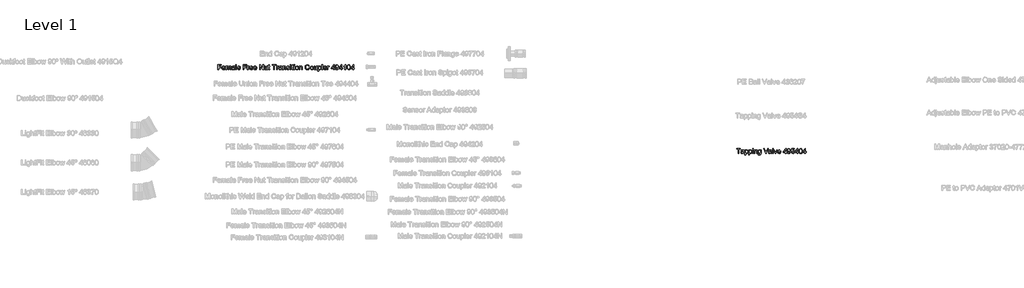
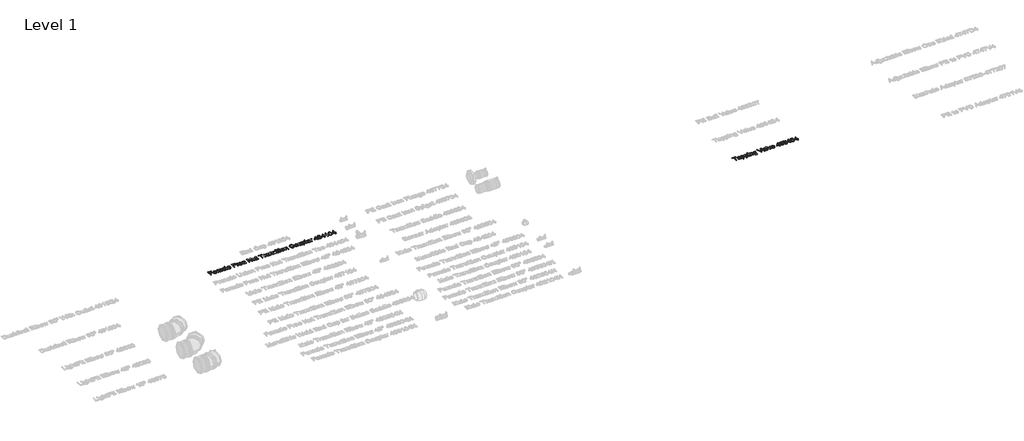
# One storey, part 26 of 38: 2 proxies.
"""IFC4 building model written with IfcOpenShell, lengths in millimetres."""

from ifc_helpers import new_model, si_unit, origin, origin_with_axes, place, context, project, spatial, polyline, outline, extrude, element, save

model = new_model("IFC4")

# Units and contexts
model_context = context("Model", 3, world=origin())
ifc_project = project(units=[si_unit("LENGTHUNIT", "METRE", prefix="MILLI")], contexts=[model_context])

# Site, building, storey
site = spatial("IfcSite", under=ifc_project)
building = spatial("IfcBuilding", under=site)
storey = spatial("IfcBuildingStorey", under=building, Name="Level 1", Elevation=0.0)

# Proxies
placement = place(None, origin())
element("IfcBuildingElementProxy", 1, Name="100 mm Arial", ObjectType="100 mm Arial", at=placement, inside=storey, context=model_context, shape_type="SweptSolid", body=[
    extrude(outline(polyline([(15533.4162632, 4921.8693943), (15533.4162632, 4980.9463174), (15573.1085709, 4980.9463174), (15573.1085709, 4973.561702), (15540.8008786, 4973.561702), (15540.8008786, 4956.0232405), (15568.4931863, 4956.0232405), (15568.4931863, 4948.6386251), (15540.8008786, 4948.6386251), (15540.8008786, 4921.8693943), (15533.4162632, 4921.8693943)])), origin_with_axes(), (0.0, 0.0, 1.0), 5.0),
    extrude(outline(polyline([(15612.7143402, 4934.7924713), (15619.9547248, 4933.8693943), (15613.1830902, 4924.3357405), (15600.5701094, 4920.9463174), (15591.9054459, 4922.4084568), (15585.2383786, 4926.7948751), (15580.9871767, 4933.8207165), (15579.5701094, 4943.2011251), (15581.0015998, 4952.8970386), (15585.2960709, 4960.1482405), (15591.872994, 4964.6698751), (15600.1518402, 4966.1770866), (15608.1728738, 4964.6734809), (15614.5821286, 4960.1626636), (15618.7846527, 4952.9258847), (15620.185494, 4943.2443943), (15620.1422248, 4941.2540097), (15586.9547248, 4941.2540097), (15591.2023209, 4931.6626636), (15600.7143402, 4928.3309328), (15607.9547248, 4929.874202), (15612.7143402, 4934.7924713)]), holes=[polyline([(15586.9547248, 4948.6386251), (15612.8008786, 4948.6386251), (15609.8441479, 4955.3309328), (15600.122994, 4958.7924713), (15591.029244, 4956.030452), (15586.9547248, 4948.6386251)])]), origin_with_axes(), (0.0, 0.0, 1.0), 5.0),
    extrude(outline(polyline([(15627.5701094, 4921.8693943), (15627.5701094, 4965.2540097), (15634.9547248, 4965.2540097), (15634.9547248, 4958.1145866), (15640.0316479, 4963.9631443), (15647.2576094, 4966.1770866), (15654.6566479, 4963.9198751), (15658.7239556, 4957.5953559), (15664.4859748, 4964.031654), (15671.7624171, 4966.1770866), (15681.4186671, 4962.6073751), (15684.8008786, 4951.609779), (15684.8008786, 4921.8693943), (15677.4162632, 4921.8693943), (15677.4162632, 4948.436702), (15676.7311671, 4954.6025674), (15674.2503979, 4957.6386251), (15670.0316479, 4958.7924713), (15662.7696286, 4955.8357405), (15659.8778017, 4946.359779), (15659.8778017, 4921.8693943), (15652.4931863, 4921.8693943), (15652.4931863, 4949.2588174), (15650.7840517, 4956.4126636), (15645.1806863, 4958.7924713), (15639.7143402, 4957.2059328), (15636.0797248, 4952.561702), (15634.9547248, 4943.749202), (15634.9547248, 4921.8693943), (15627.5701094, 4921.8693943)])), origin_with_axes(), (0.0, 0.0, 1.0), 5.0),
    extrude(outline(polyline([(15723.5701094, 4927.4078559), (15716.4090517, 4922.4030482), (15708.497994, 4920.9463174), (15697.7744363, 4924.4511251), (15694.0316479, 4933.4078559), (15695.4451094, 4939.249202), (15699.1590517, 4943.4895866), (15704.3297248, 4945.9126636), (15710.7191479, 4947.0232405), (15723.5268402, 4949.561702), (15723.5701094, 4951.2059328), (15721.5364556, 4956.6578559), (15713.372994, 4958.7924713), (15705.9018402, 4957.3717982), (15702.3393402, 4952.3309328), (15694.9547248, 4953.2540097), (15698.1494363, 4960.4655482), (15704.5821286, 4964.6915097), (15714.3249171, 4966.1770866), (15723.2744363, 4964.8645866), (15728.3297248, 4961.5689136), (15730.5941479, 4956.5568943), (15730.9547248, 4950.0953559), (15730.9547248, 4940.9078559), (15731.3297248, 4928.078529), (15732.8008786, 4921.8693943), (15725.4162632, 4921.8693943), (15723.5701094, 4927.4078559)]), holes=[polyline([(15723.5701094, 4942.1770866), (15711.6566479, 4939.9126636), (15705.3032825, 4938.7155482), (15702.4258786, 4936.7684328), (15701.4162632, 4933.9270866), (15703.6157825, 4929.9318943), (15710.0701094, 4928.3309328), (15717.5412632, 4930.0977597), (15722.3585709, 4934.374202), (15723.5268402, 4940.0857405), (15723.5701094, 4942.1770866)])]), origin_with_axes(), (0.0, 0.0, 1.0), 5.0),
    extrude(outline(polyline([(15741.1085709, 4921.8693943), (15741.1085709, 4980.9463174), (15748.4931863, 4980.9463174), (15748.4931863, 4921.8693943), (15741.1085709, 4921.8693943)])), origin_with_axes(), (0.0, 0.0, 1.0), 5.0),
    extrude(outline(polyline([(15789.9451094, 4934.7924713), (15797.185494, 4933.8693943), (15790.4138594, 4924.3357405), (15777.8008786, 4920.9463174), (15769.1362152, 4922.4084568), (15762.4691479, 4926.7948751), (15758.2179459, 4933.8207165), (15756.8008786, 4943.2011251), (15758.232369, 4952.8970386), (15762.5268402, 4960.1482405), (15769.1037632, 4964.6698751), (15777.3826094, 4966.1770866), (15785.4036431, 4964.6734809), (15791.8128979, 4960.1626636), (15796.0154219, 4952.9258847), (15797.4162632, 4943.2443943), (15797.372994, 4941.2540097), (15764.185494, 4941.2540097), (15768.4330902, 4931.6626636), (15777.9451094, 4928.3309328), (15785.185494, 4929.874202), (15789.9451094, 4934.7924713)]), holes=[polyline([(15764.185494, 4948.6386251), (15790.0316479, 4948.6386251), (15787.0749171, 4955.3309328), (15777.3537632, 4958.7924713), (15768.2600132, 4956.030452), (15764.185494, 4948.6386251)])]), origin_with_axes(), (0.0, 0.0, 1.0), 5.0),
    extrude(outline(polyline([(15828.8008786, 4921.8693943), (15828.8008786, 4980.9463174), (15868.4931863, 4980.9463174), (15868.4931863, 4973.561702), (15836.185494, 4973.561702), (15836.185494, 4956.0232405), (15863.8778017, 4956.0232405), (15863.8778017, 4948.6386251), (15836.185494, 4948.6386251), (15836.185494, 4921.8693943), (15828.8008786, 4921.8693943)])), origin_with_axes(), (0.0, 0.0, 1.0), 5.0),
    extrude(outline(polyline([(15877.7239556, 4921.8693943), (15877.7239556, 4965.2540097), (15884.185494, 4965.2540097), (15884.185494, 4958.8357405), (15888.7720325, 4964.749202), (15893.3874171, 4966.1770866), (15900.8008786, 4963.8982405), (15898.3345325, 4957.2780482), (15893.1422248, 4958.7924713), (15888.966744, 4957.3357405), (15886.3056863, 4953.297279), (15885.1085709, 4944.672279), (15885.1085709, 4921.8693943), (15877.7239556, 4921.8693943)])), origin_with_axes(), (0.0, 0.0, 1.0), 5.0),
    extrude(outline(polyline([(15935.7912632, 4934.7924713), (15943.0316479, 4933.8693943), (15936.2600132, 4924.3357405), (15923.6470325, 4920.9463174), (15914.982369, 4922.4084568), (15908.3153017, 4926.7948751), (15904.0640998, 4933.8207165), (15902.6470325, 4943.2011251), (15904.0785229, 4952.8970386), (15908.372994, 4960.1482405), (15914.9499171, 4964.6698751), (15923.2287632, 4966.1770866), (15931.2497969, 4964.6734809), (15937.6590517, 4960.1626636), (15941.8615757, 4952.9258847), (15943.2624171, 4943.2443943), (15943.2191479, 4941.2540097), (15910.0316479, 4941.2540097), (15914.279244, 4931.6626636), (15923.7912632, 4928.3309328), (15931.0316479, 4929.874202), (15935.7912632, 4934.7924713)]), holes=[polyline([(15910.0316479, 4948.6386251), (15935.8778017, 4948.6386251), (15932.9210709, 4955.3309328), (15923.1999171, 4958.7924713), (15914.1061671, 4956.030452), (15910.0316479, 4948.6386251)])]), origin_with_axes(), (0.0, 0.0, 1.0), 5.0),
    extrude(outline(polyline([(15981.0220325, 4934.7924713), (15988.2624171, 4933.8693943), (15981.4907825, 4924.3357405), (15968.8778017, 4920.9463174), (15960.2131382, 4922.4084568), (15953.5460709, 4926.7948751), (15949.294869, 4933.8207165), (15947.8778017, 4943.2011251), (15949.3092921, 4952.8970386), (15953.6037632, 4960.1482405), (15960.1806863, 4964.6698751), (15968.4595325, 4966.1770866), (15976.4805661, 4964.6734809), (15982.8898209, 4960.1626636), (15987.092345, 4952.9258847), (15988.4931863, 4943.2443943), (15988.4499171, 4941.2540097), (15955.2624171, 4941.2540097), (15959.5100132, 4931.6626636), (15969.0220325, 4928.3309328), (15976.2624171, 4929.874202), (15981.0220325, 4934.7924713)]), holes=[polyline([(15955.2624171, 4948.6386251), (15981.1085709, 4948.6386251), (15978.1518402, 4955.3309328), (15968.4306863, 4958.7924713), (15959.3369363, 4956.030452), (15955.2624171, 4948.6386251)])]), origin_with_axes(), (0.0, 0.0, 1.0), 5.0),
    extrude(outline(polyline([(16019.8778017, 4921.8693943), (16019.8778017, 4980.9463174), (16027.7816479, 4980.9463174), (16058.6470325, 4934.1434328), (16058.6470325, 4980.9463174), (16066.0316479, 4980.9463174), (16066.0316479, 4921.8693943), (16058.1278017, 4921.8693943), (16027.2624171, 4968.686702), (16027.2624171, 4921.8693943), (16019.8778017, 4921.8693943)])), origin_with_axes(), (0.0, 0.0, 1.0), 5.0),
    extrude(outline(polyline([(16105.7239556, 4921.8693943), (16105.7239556, 4929.3261251), (16099.9403017, 4923.0412693), (16092.3970325, 4920.9463174), (16085.4523209, 4922.4174713), (16080.6638594, 4926.109779), (16078.4643402, 4931.547279), (16078.0316479, 4938.4126636), (16078.0316479, 4965.2540097), (16085.4162632, 4965.2540097), (16085.4162632, 4941.8886251), (16085.8633786, 4934.359779), (16088.7840517, 4929.9391059), (16094.2864556, 4928.3309328), (16100.4523209, 4929.9751636), (16104.5268402, 4934.453529), (16105.7239556, 4942.6818943), (16105.7239556, 4965.2540097), (16113.1085709, 4965.2540097), (16113.1085709, 4921.8693943), (16105.7239556, 4921.8693943)])), origin_with_axes(), (0.0, 0.0, 1.0), 5.0),
    extrude(outline(polyline([(16138.9547248, 4928.0280482), (16139.8778017, 4921.6530482), (16134.3537632, 4920.9463174), (16128.1662632, 4922.172279), (16125.0797248, 4925.3886251), (16124.185494, 4933.7684328), (16124.185494, 4957.8693943), (16118.6470325, 4957.8693943), (16118.6470325, 4965.2540097), (16124.185494, 4965.2540097), (16124.185494, 4975.797279), (16131.5701094, 4980.1386251), (16131.5701094, 4965.2540097), (16138.9547248, 4965.2540097), (16138.9547248, 4957.8693943), (16131.5701094, 4957.8693943), (16131.5701094, 4933.984779), (16131.9595325, 4930.1770866), (16133.2215517, 4928.828529), (16135.7383786, 4928.3309328), (16138.9547248, 4928.0280482)])), origin_with_axes(), (0.0, 0.0, 1.0), 5.0),
    extrude(outline(polyline([(16185.1085709, 4921.8693943), (16185.1085709, 4973.561702), (16165.7239556, 4973.561702), (16165.7239556, 4980.9463174), (16211.8778017, 4980.9463174), (16211.8778017, 4973.561702), (16192.4931863, 4973.561702), (16192.4931863, 4921.8693943), (16185.1085709, 4921.8693943)])), origin_with_axes(), (0.0, 0.0, 1.0), 5.0),
    extrude(outline(polyline([(16219.2624171, 4921.8693943), (16219.2624171, 4965.2540097), (16225.7239556, 4965.2540097), (16225.7239556, 4958.8357405), (16230.310494, 4964.749202), (16234.9258786, 4966.1770866), (16242.3393402, 4963.8982405), (16239.872994, 4957.2780482), (16234.6806863, 4958.7924713), (16230.5052056, 4957.3357405), (16227.8441479, 4953.297279), (16226.6470325, 4944.672279), (16226.6470325, 4921.8693943), (16219.2624171, 4921.8693943)])), origin_with_axes(), (0.0, 0.0, 1.0), 5.0),
    extrude(outline(polyline([(16274.6470325, 4927.4078559), (16267.4859748, 4922.4030482), (16259.5749171, 4920.9463174), (16248.8513594, 4924.4511251), (16245.1085709, 4933.4078559), (16246.5220325, 4939.249202), (16250.2359748, 4943.4895866), (16255.4066479, 4945.9126636), (16261.7960709, 4947.0232405), (16274.6037632, 4949.561702), (16274.6470325, 4951.2059328), (16272.6133786, 4956.6578559), (16264.4499171, 4958.7924713), (16256.9787632, 4957.3717982), (16253.4162632, 4952.3309328), (16246.0316479, 4953.2540097), (16249.2263594, 4960.4655482), (16255.6590517, 4964.6915097), (16265.4018402, 4966.1770866), (16274.3513594, 4964.8645866), (16279.4066479, 4961.5689136), (16281.6710709, 4956.5568943), (16282.0316479, 4950.0953559), (16282.0316479, 4940.9078559), (16282.4066479, 4928.078529), (16283.8778017, 4921.8693943), (16276.4931863, 4921.8693943), (16274.6470325, 4927.4078559)]), holes=[polyline([(16274.6470325, 4942.1770866), (16262.7335709, 4939.9126636), (16256.3802056, 4938.7155482), (16253.5028017, 4936.7684328), (16252.4931863, 4933.9270866), (16254.6927056, 4929.9318943), (16261.1470325, 4928.3309328), (16268.6181863, 4930.0977597), (16273.435494, 4934.374202), (16274.6037632, 4940.0857405), (16274.6470325, 4942.1770866)])]), origin_with_axes(), (0.0, 0.0, 1.0), 5.0),
    extrude(outline(polyline([(16292.185494, 4921.8693943), (16292.185494, 4965.2540097), (16299.5701094, 4965.2540097), (16299.5701094, 4959.1963174), (16305.216744, 4964.4318943), (16312.9258786, 4966.1770866), (16319.8994363, 4964.7708366), (16324.6590517, 4961.078529), (16326.872994, 4955.6482405), (16327.2624171, 4948.5088174), (16327.2624171, 4921.8693943), (16319.8778017, 4921.8693943), (16319.8778017, 4947.5136251), (16319.0268402, 4954.047279), (16316.0196286, 4957.5016059), (16310.9499171, 4958.7924713), (16302.9378979, 4955.8934328), (16299.5701094, 4944.8886251), (16299.5701094, 4921.8693943), (16292.185494, 4921.8693943)])), origin_with_axes(), (0.0, 0.0, 1.0), 5.0),
    extrude(outline(polyline([(16334.6470325, 4934.7924713), (16342.0316479, 4935.7155482), (16345.4499171, 4930.234779), (16353.2816479, 4928.3309328), (16360.810494, 4930.0761251), (16363.2624171, 4934.172279), (16360.7960709, 4937.4895866), (16353.1951094, 4939.5953559), (16342.0749171, 4943.2083366), (16337.2215517, 4947.4270866), (16335.5701094, 4953.3838174), (16336.8970325, 4958.8862213), (16340.5172248, 4963.0905482), (16345.2119363, 4965.2756443), (16351.5653017, 4966.1770866), (16360.5508786, 4964.7275674), (16366.2624171, 4960.8044905), (16368.8008786, 4954.1770866), (16361.4162632, 4953.2540097), (16358.6398209, 4957.328529), (16352.1422248, 4958.7924713), (16345.0749171, 4957.3934328), (16342.9547248, 4954.1338174), (16343.8345325, 4951.984779), (16346.5893402, 4950.3549713), (16352.9499171, 4948.7828559), (16363.7888594, 4945.3068943), (16368.8225132, 4941.3693943), (16370.6470325, 4934.9511251), (16368.5052056, 4927.8838174), (16362.3249171, 4922.7564136), (16353.1806863, 4920.9463174), (16340.3008786, 4924.436702), (16334.6470325, 4934.7924713)])), origin_with_axes(), (0.0, 0.0, 1.0), 5.0),
    extrude(outline(polyline([(16378.9547248, 4921.8693943), (16378.9547248, 4965.2540097), (16386.3393402, 4965.2540097), (16386.3393402, 4921.8693943), (16378.9547248, 4921.8693943)])), origin_with_axes(), (0.0, 0.0, 1.0), 5.0),
    extrude(outline(polyline([(16378.9547248, 4973.561702), (16378.9547248, 4980.9463174), (16386.3393402, 4980.9463174), (16386.3393402, 4973.561702), (16378.9547248, 4973.561702)])), origin_with_axes(), (0.0, 0.0, 1.0), 5.0),
    extrude(outline(polyline([(16413.1085709, 4928.0280482), (16414.0316479, 4921.6530482), (16408.5076094, 4920.9463174), (16402.3201094, 4922.172279), (16399.2335709, 4925.3886251), (16398.3393402, 4933.7684328), (16398.3393402, 4957.8693943), (16392.8008786, 4957.8693943), (16392.8008786, 4965.2540097), (16398.3393402, 4965.2540097), (16398.3393402, 4975.797279), (16405.7239556, 4980.1386251), (16405.7239556, 4965.2540097), (16413.1085709, 4965.2540097), (16413.1085709, 4957.8693943), (16405.7239556, 4957.8693943), (16405.7239556, 4933.984779), (16406.1133786, 4930.1770866), (16407.3753979, 4928.828529), (16409.8922248, 4928.3309328), (16413.1085709, 4928.0280482)])), origin_with_axes(), (0.0, 0.0, 1.0), 5.0),
    extrude(outline(polyline([(16420.4931863, 4973.561702), (16420.4931863, 4980.9463174), (16427.8778017, 4980.9463174), (16427.8778017, 4973.561702), (16420.4931863, 4973.561702)])), origin_with_axes(), (0.0, 0.0, 1.0), 5.0),
    extrude(outline(polyline([(16420.4931863, 4921.8693943), (16420.4931863, 4965.2540097), (16427.8778017, 4965.2540097), (16427.8778017, 4921.8693943), (16420.4931863, 4921.8693943)])), origin_with_axes(), (0.0, 0.0, 1.0), 5.0),
    extrude(outline(polyline([(16437.1085709, 4943.561702), (16438.7059267, 4954.0220386), (16443.497994, 4961.374202), (16456.5076094, 4966.1770866), (16464.2654219, 4964.7149472), (16470.4619363, 4960.328529), (16474.5238354, 4953.3639857), (16475.8778017, 4944.1674713), (16473.4835709, 4931.0280482), (16466.5100132, 4923.592952), (16456.5076094, 4920.9463174), (16448.6560469, 4922.4030482), (16442.466744, 4926.7732405), (16438.4481142, 4933.8838174), (16437.1085709, 4943.561702)]), holes=[polyline([(16444.4931863, 4943.5761251), (16447.9114556, 4932.1314136), (16456.5076094, 4928.3309328), (16465.0749171, 4932.1530482), (16468.4931863, 4943.8068943), (16465.0532825, 4954.9919905), (16456.5076094, 4958.7924713), (16447.9114556, 4955.0064136), (16444.4931863, 4943.5761251)])]), origin_with_axes(), (0.0, 0.0, 1.0), 5.0),
    extrude(outline(polyline([(16484.185494, 4921.8693943), (16484.185494, 4965.2540097), (16491.5701094, 4965.2540097), (16491.5701094, 4959.1963174), (16497.216744, 4964.4318943), (16504.9258786, 4966.1770866), (16511.8994363, 4964.7708366), (16516.6590517, 4961.078529), (16518.872994, 4955.6482405), (16519.2624171, 4948.5088174), (16519.2624171, 4921.8693943), (16511.8778017, 4921.8693943), (16511.8778017, 4947.5136251), (16511.0268402, 4954.047279), (16508.0196286, 4957.5016059), (16502.9499171, 4958.7924713), (16494.9378979, 4955.8934328), (16491.5701094, 4944.8886251), (16491.5701094, 4921.8693943), (16484.185494, 4921.8693943)])), origin_with_axes(), (0.0, 0.0, 1.0), 5.0),
    extrude(outline(polyline([(16594.9547248, 4942.8693943), (16602.3393402, 4940.9655482), (16593.5845325, 4926.0737213), (16578.122994, 4920.9463174), (16562.7552056, 4924.8261251), (16553.7407825, 4936.061702), (16550.6470325, 4951.8549713), (16554.1446286, 4967.9078559), (16564.0893402, 4978.3141059), (16578.2816479, 4981.8693943), (16593.0725132, 4977.2684328), (16601.4162632, 4964.3165097), (16594.0316479, 4962.5568943), (16587.9739556, 4971.6362213), (16577.9931863, 4974.484779), (16566.4403017, 4971.3261251), (16559.9138594, 4962.8453559), (16558.0316479, 4951.8693943), (16560.2600132, 4939.1482405), (16567.1975132, 4931.0208366), (16577.3874171, 4928.3309328), (16588.6878979, 4931.9943943), (16594.9547248, 4942.8693943)])), origin_with_axes(), (0.0, 0.0, 1.0), 5.0),
    extrude(outline(polyline([(16609.7239556, 4943.561702), (16611.3213113, 4954.0220386), (16616.1133786, 4961.374202), (16629.122994, 4966.1770866), (16636.8808065, 4964.7149472), (16643.0773209, 4960.328529), (16647.13922, 4953.3639857), (16648.4931863, 4944.1674713), (16646.0989556, 4931.0280482), (16639.1253979, 4923.592952), (16629.122994, 4920.9463174), (16621.2714315, 4922.4030482), (16615.0821286, 4926.7732405), (16611.0634988, 4933.8838174), (16609.7239556, 4943.561702)]), holes=[polyline([(16617.1085709, 4943.5761251), (16620.5268402, 4932.1314136), (16629.122994, 4928.3309328), (16637.6903017, 4932.1530482), (16641.1085709, 4943.8068943), (16637.6686671, 4954.9919905), (16629.122994, 4958.7924713), (16620.5268402, 4955.0064136), (16617.1085709, 4943.5761251)])]), origin_with_axes(), (0.0, 0.0, 1.0), 5.0),
    extrude(outline(polyline([(16684.4931863, 4921.8693943), (16684.4931863, 4929.3261251), (16678.7095325, 4923.0412693), (16671.1662632, 4920.9463174), (16664.2215517, 4922.4174713), (16659.4330902, 4926.109779), (16657.2335709, 4931.547279), (16656.8008786, 4938.4126636), (16656.8008786, 4965.2540097), (16664.185494, 4965.2540097), (16664.185494, 4941.8886251), (16664.6326094, 4934.359779), (16667.5532825, 4929.9391059), (16673.0556863, 4928.3309328), (16679.2215517, 4929.9751636), (16683.2960709, 4934.453529), (16684.4931863, 4942.6818943), (16684.4931863, 4965.2540097), (16691.8778017, 4965.2540097), (16691.8778017, 4921.8693943), (16684.4931863, 4921.8693943)])), origin_with_axes(), (0.0, 0.0, 1.0), 5.0),
    extrude(outline(polyline([(16702.0316479, 4905.2540097), (16702.0316479, 4965.2540097), (16709.4162632, 4965.2540097), (16709.4162632, 4958.0136251), (16714.5220325, 4964.1362213), (16721.4162632, 4966.1770866), (16730.7768402, 4963.3213174), (16736.8922248, 4955.2732405), (16738.9547248, 4943.8934328), (16736.6253979, 4931.9294905), (16729.8609748, 4923.780452), (16720.5220325, 4920.9463174), (16714.0965517, 4922.842952), (16709.4162632, 4927.6386251), (16709.4162632, 4905.2540097), (16702.0316479, 4905.2540097)]), holes=[polyline([(16709.4162632, 4943.2155482), (16712.6109748, 4931.9655482), (16720.3633786, 4928.3309328), (16728.2744363, 4932.0953559), (16731.5701094, 4943.7636251), (16728.3537632, 4955.0424713), (16720.6662632, 4958.7924713), (16712.8273209, 4954.8044905), (16709.4162632, 4943.2155482)])]), origin_with_axes(), (0.0, 0.0, 1.0), 5.0),
    extrude(outline(polyline([(16747.2624171, 4921.8693943), (16747.2624171, 4980.9463174), (16754.6470325, 4980.9463174), (16754.6470325, 4921.8693943), (16747.2624171, 4921.8693943)])), origin_with_axes(), (0.0, 0.0, 1.0), 5.0),
    extrude(outline(polyline([(16796.0989556, 4934.7924713), (16803.3393402, 4933.8693943), (16796.5677056, 4924.3357405), (16783.9547248, 4920.9463174), (16775.2900613, 4922.4084568), (16768.622994, 4926.7948751), (16764.3717921, 4933.8207165), (16762.9547248, 4943.2011251), (16764.3862152, 4952.8970386), (16768.6806863, 4960.1482405), (16775.2576094, 4964.6698751), (16783.5364556, 4966.1770866), (16791.5574892, 4964.6734809), (16797.966744, 4960.1626636), (16802.1692681, 4952.9258847), (16803.5701094, 4943.2443943), (16803.5268402, 4941.2540097), (16770.3393402, 4941.2540097), (16774.5869363, 4931.6626636), (16784.0989556, 4928.3309328), (16791.3393402, 4929.874202), (16796.0989556, 4934.7924713)]), holes=[polyline([(16770.3393402, 4948.6386251), (16796.185494, 4948.6386251), (16793.2287632, 4955.3309328), (16783.5076094, 4958.7924713), (16774.4138594, 4956.030452), (16770.3393402, 4948.6386251)])]), origin_with_axes(), (0.0, 0.0, 1.0), 5.0),
    extrude(outline(polyline([(16810.9547248, 4921.8693943), (16810.9547248, 4965.2540097), (16817.4162632, 4965.2540097), (16817.4162632, 4958.8357405), (16822.0028017, 4964.749202), (16826.6181863, 4966.1770866), (16834.0316479, 4963.8982405), (16831.5653017, 4957.2780482), (16826.372994, 4958.7924713), (16822.1975132, 4957.3357405), (16819.5364556, 4953.297279), (16818.3393402, 4944.672279), (16818.3393402, 4921.8693943), (16810.9547248, 4921.8693943)])), origin_with_axes(), (0.0, 0.0, 1.0), 5.0),
    extrude(outline(polyline([(16883.8778017, 4921.8693943), (16883.8778017, 4935.7155482), (16857.1085709, 4935.7155482), (16857.1085709, 4943.1001636), (16885.7239556, 4980.0232405), (16891.2624171, 4980.0232405), (16891.2624171, 4943.1001636), (16898.6470325, 4943.1001636), (16898.6470325, 4935.7155482), (16891.2624171, 4935.7155482), (16891.2624171, 4921.8693943), (16883.8778017, 4921.8693943)]), holes=[polyline([(16883.8778017, 4943.1001636), (16883.8778017, 4965.9174713), (16866.1951094, 4943.1001636), (16883.8778017, 4943.1001636)])]), origin_with_axes(), (0.0, 0.0, 1.0), 5.0),
    extrude(outline(polyline([(16906.0316479, 4936.6386251), (16913.4162632, 4937.561702), (16916.7335709, 4930.516029), (16923.0220325, 4928.3309328), (16929.0003979, 4929.7371828), (16933.0532825, 4933.4943943), (16935.4691479, 4939.9126636), (16936.5364556, 4948.4799713), (16930.5869363, 4944.3261251), (16922.4883786, 4942.1770866), (16910.1494363, 4947.4270866), (16905.1085709, 4961.2588174), (16910.3946286, 4975.5376636), (16923.6422248, 4980.9463174), (16934.1638594, 4977.859779), (16941.404244, 4969.061702), (16943.8778017, 4952.5328559), (16941.4114556, 4934.5977597), (16934.0773209, 4924.436702), (16922.6758786, 4920.9463174), (16911.3249171, 4925.0641059), (16906.0316479, 4936.6386251)]), holes=[polyline([(16936.4931863, 4961.4318943), (16933.3056863, 4970.2876636), (16924.8393402, 4973.561702), (16915.9547248, 4970.0352597), (16912.4931863, 4960.8982405), (16915.7672248, 4952.7131443), (16924.6374171, 4949.561702), (16933.154244, 4952.7131443), (16936.4931863, 4961.4318943)])]), origin_with_axes(), (0.0, 0.0, 1.0), 5.0),
    extrude(outline(polyline([(16974.3393402, 4921.8693943), (16974.3393402, 4935.7155482), (16947.5701094, 4935.7155482), (16947.5701094, 4943.1001636), (16976.185494, 4980.0232405), (16981.7239556, 4980.0232405), (16981.7239556, 4943.1001636), (16989.1085709, 4943.1001636), (16989.1085709, 4935.7155482), (16981.7239556, 4935.7155482), (16981.7239556, 4921.8693943), (16974.3393402, 4921.8693943)]), holes=[polyline([(16974.3393402, 4943.1001636), (16974.3393402, 4965.9174713), (16956.6566479, 4943.1001636), (16974.3393402, 4943.1001636)])]), origin_with_axes(), (0.0, 0.0, 1.0), 5.0),
    extrude(outline(polyline([(17023.2624171, 4921.8693943), (17015.8778017, 4921.8693943), (17015.8778017, 4967.9078559), (17008.8826094, 4962.9246828), (17001.1085709, 4959.1963174), (17001.1085709, 4966.1770866), (17011.9330902, 4973.0857405), (17018.5028017, 4980.9463174), (17023.2624171, 4980.9463174), (17023.2624171, 4921.8693943)])), origin_with_axes(), (0.0, 0.0, 1.0), 5.0),
    extrude(outline(polyline([(17040.8008786, 4950.9318943), (17042.9715517, 4967.9294905), (17049.4186671, 4977.7299713), (17060.185494, 4980.9463174), (17068.810494, 4979.0424713), (17074.7672248, 4973.5544905), (17078.2287632, 4964.8141059), (17079.5701094, 4950.9318943), (17077.4210709, 4934.0064136), (17070.9955902, 4924.1842982), (17060.185494, 4920.9463174), (17052.5124171, 4922.3525674), (17046.685494, 4926.5713174), (17042.2720325, 4936.562904), (17040.8008786, 4950.9318943)]), holes=[polyline([(17048.185494, 4950.9463174), (17051.6470325, 4932.6073751), (17060.185494, 4928.3309328), (17068.7239556, 4932.6217982), (17072.185494, 4950.9463174), (17068.8393402, 4969.0761251), (17060.0989556, 4973.561702), (17051.7624171, 4969.609779), (17048.185494, 4950.9463174)])]), origin_with_axes(), (0.0, 0.0, 1.0), 5.0),
    extrude(outline(polyline([(17110.0316479, 4921.8693943), (17110.0316479, 4935.7155482), (17083.2624171, 4935.7155482), (17083.2624171, 4943.1001636), (17111.8778017, 4980.0232405), (17117.4162632, 4980.0232405), (17117.4162632, 4943.1001636), (17124.8008786, 4943.1001636), (17124.8008786, 4935.7155482), (17117.4162632, 4935.7155482), (17117.4162632, 4921.8693943), (17110.0316479, 4921.8693943)]), holes=[polyline([(17110.0316479, 4943.1001636), (17110.0316479, 4965.9174713), (17092.3489556, 4943.1001636), (17110.0316479, 4943.1001636)])]), origin_with_axes(), (0.0, 0.0, 1.0), 5.0),
])
element("IfcBuildingElementProxy", 2, Name="100 mm Arial", ObjectType="100 mm Arial", at=placement, inside=storey, context=model_context, shape_type="SweptSolid", body=[
    extrude(outline(polyline([(21607.0047402, 3942.3077873), (21607.0047402, 3994.000095), (21587.6201248, 3994.000095), (21587.6201248, 4001.3847104), (21633.7739709, 4001.3847104), (21633.7739709, 3994.000095), (21614.3893556, 3994.000095), (21614.3893556, 3942.3077873), (21607.0047402, 3942.3077873)])), origin_with_axes(), (0.0, 0.0, 1.0), 5.0),
    extrude(outline(polyline([(21668.850894, 3947.8462488), (21661.6898363, 3942.8414411), (21653.7787786, 3941.3847104), (21643.0552209, 3944.8895181), (21639.3124325, 3953.8462488), (21640.725894, 3959.687595), (21644.4398363, 3963.9279796), (21649.6105094, 3966.3510565), (21655.9999325, 3967.4616334), (21668.8076248, 3970.000095), (21668.850894, 3971.6443257), (21666.8172402, 3977.0962488), (21658.6537786, 3979.2308642), (21651.1826248, 3977.8101911), (21647.6201248, 3972.7693257), (21640.2355094, 3973.6924027), (21643.4302209, 3980.9039411), (21649.8629132, 3985.1299027), (21659.6057017, 3986.6154796), (21668.5552209, 3985.3029796), (21673.6105094, 3982.0073065), (21675.8749325, 3976.9952873), (21676.2355094, 3970.5337488), (21676.2355094, 3961.3462488), (21676.6105094, 3948.5169219), (21678.0816632, 3942.3077873), (21670.6970479, 3942.3077873), (21668.850894, 3947.8462488)]), holes=[polyline([(21668.850894, 3962.6154796), (21656.9374325, 3960.3510565), (21650.5840671, 3959.1539411), (21647.7066632, 3957.2068257), (21646.6970479, 3954.3654796), (21648.8965671, 3950.3702873), (21655.350894, 3948.7693257), (21662.8220479, 3950.5361527), (21667.6393556, 3954.812595), (21668.8076248, 3960.5241334), (21668.850894, 3962.6154796)])]), origin_with_axes(), (0.0, 0.0, 1.0), 5.0),
    extrude(outline(polyline([(21686.3893556, 3925.6924027), (21686.3893556, 3985.6924027), (21693.7739709, 3985.6924027), (21693.7739709, 3978.4520181), (21698.8797402, 3984.5746142), (21705.7739709, 3986.6154796), (21715.1345479, 3983.7597104), (21721.2499325, 3975.7116334), (21723.3124325, 3964.3318257), (21720.9831056, 3952.3678834), (21714.2186825, 3944.218845), (21704.8797402, 3941.3847104), (21698.4542594, 3943.281345), (21693.7739709, 3948.0770181), (21693.7739709, 3925.6924027), (21686.3893556, 3925.6924027)]), holes=[polyline([(21693.7739709, 3963.6539411), (21696.9686825, 3952.4039411), (21704.7210863, 3948.7693257), (21712.632144, 3952.5337488), (21715.9278171, 3964.2020181), (21712.7114709, 3975.4808642), (21705.0239709, 3979.2308642), (21697.1850286, 3975.2428834), (21693.7739709, 3963.6539411)])]), origin_with_axes(), (0.0, 0.0, 1.0), 5.0),
    extrude(outline(polyline([(21731.6201248, 3925.6924027), (21731.6201248, 3985.6924027), (21739.0047402, 3985.6924027), (21739.0047402, 3978.4520181), (21744.1105094, 3984.5746142), (21751.0047402, 3986.6154796), (21760.3653171, 3983.7597104), (21766.4807017, 3975.7116334), (21768.5432017, 3964.3318257), (21766.2138748, 3952.3678834), (21759.4494517, 3944.218845), (21750.1105094, 3941.3847104), (21743.6850286, 3943.281345), (21739.0047402, 3948.0770181), (21739.0047402, 3925.6924027), (21731.6201248, 3925.6924027)]), holes=[polyline([(21739.0047402, 3963.6539411), (21742.1994517, 3952.4039411), (21749.9518556, 3948.7693257), (21757.8629132, 3952.5337488), (21761.1585863, 3964.2020181), (21757.9422402, 3975.4808642), (21750.2547402, 3979.2308642), (21742.4157979, 3975.2428834), (21739.0047402, 3963.6539411)])]), origin_with_axes(), (0.0, 0.0, 1.0), 5.0),
    extrude(outline(polyline([(21776.850894, 3994.000095), (21776.850894, 4001.3847104), (21784.2355094, 4001.3847104), (21784.2355094, 3994.000095), (21776.850894, 3994.000095)])), origin_with_axes(), (0.0, 0.0, 1.0), 5.0),
    extrude(outline(polyline([(21776.850894, 3942.3077873), (21776.850894, 3985.6924027), (21784.2355094, 3985.6924027), (21784.2355094, 3942.3077873), (21776.850894, 3942.3077873)])), origin_with_axes(), (0.0, 0.0, 1.0), 5.0),
    extrude(outline(polyline([(21795.3124325, 3942.3077873), (21795.3124325, 3985.6924027), (21802.6970479, 3985.6924027), (21802.6970479, 3979.6347104), (21808.3436825, 3984.8702873), (21816.0528171, 3986.6154796), (21823.0263748, 3985.2092296), (21827.7859902, 3981.5169219), (21829.9999325, 3976.0866334), (21830.3893556, 3968.9472104), (21830.3893556, 3942.3077873), (21823.0047402, 3942.3077873), (21823.0047402, 3967.9520181), (21822.1537786, 3974.4856719), (21819.1465671, 3977.9399988), (21814.0768556, 3979.2308642), (21806.0648363, 3976.3318257), (21802.6970479, 3965.3270181), (21802.6970479, 3942.3077873), (21795.3124325, 3942.3077873)])), origin_with_axes(), (0.0, 0.0, 1.0), 5.0),
    extrude(outline(polyline([(21838.6970479, 3938.6154796), (21846.0816632, 3937.6924027), (21848.475894, 3933.7981719), (21855.6441632, 3932.1539411), (21863.2018556, 3934.0145181), (21866.8076248, 3939.2356719), (21867.3124325, 3947.8462488), (21855.7739709, 3942.3077873), (21848.1603892, 3943.9195661), (21842.4831056, 3948.7549027), (21837.7739709, 3964.2164411), (21839.8869517, 3975.6611527), (21846.0023363, 3983.7597104), (21855.413394, 3986.6154796), (21862.0011344, 3985.000095), (21867.3124325, 3980.1539411), (21867.3124325, 3985.6924027), (21874.6970479, 3985.6924027), (21874.6970479, 3948.2356719), (21872.6778171, 3933.8919219), (21866.2811825, 3927.2212488), (21855.4999325, 3924.7693257), (21843.2186825, 3928.2236527), (21838.6970479, 3938.6154796)]), holes=[polyline([(21845.1585863, 3964.7212488), (21848.3100286, 3953.2909604), (21856.2210863, 3949.6924027), (21864.1177209, 3953.2693257), (21867.3124325, 3964.5049027), (21864.0239709, 3975.5169219), (21856.1057017, 3979.2308642), (21848.3532979, 3975.5746142), (21845.1585863, 3964.7212488)])]), origin_with_axes(), (0.0, 0.0, 1.0), 5.0),
    extrude(outline(polyline([(21927.225894, 3942.3077873), (21903.7162786, 4001.3847104), (21911.6201248, 4001.3847104), (21927.3557017, 3958.8222104), (21930.5432017, 3949.2308642), (21933.6874325, 3958.8222104), (21949.4662786, 4001.3847104), (21957.3701248, 4001.3847104), (21934.8557017, 3942.3077873), (21927.225894, 3942.3077873)])), origin_with_axes(), (0.0, 0.0, 1.0), 5.0),
    extrude(outline(polyline([(21991.0047402, 3947.8462488), (21983.8436825, 3942.8414411), (21975.9326248, 3941.3847104), (21965.2090671, 3944.8895181), (21961.4662786, 3953.8462488), (21962.8797402, 3959.687595), (21966.5936825, 3963.9279796), (21971.7643556, 3966.3510565), (21978.1537786, 3967.4616334), (21990.9614709, 3970.000095), (21991.0047402, 3971.6443257), (21988.9710863, 3977.0962488), (21980.8076248, 3979.2308642), (21973.3364709, 3977.8101911), (21969.7739709, 3972.7693257), (21962.3893556, 3973.6924027), (21965.5840671, 3980.9039411), (21972.0167594, 3985.1299027), (21981.7595479, 3986.6154796), (21990.7090671, 3985.3029796), (21995.7643556, 3982.0073065), (21998.0287786, 3976.9952873), (21998.3893556, 3970.5337488), (21998.3893556, 3961.3462488), (21998.7643556, 3948.5169219), (22000.2355094, 3942.3077873), (21992.850894, 3942.3077873), (21991.0047402, 3947.8462488)]), holes=[polyline([(21991.0047402, 3962.6154796), (21979.0912786, 3960.3510565), (21972.7379132, 3959.1539411), (21969.8605094, 3957.2068257), (21968.850894, 3954.3654796), (21971.0504132, 3950.3702873), (21977.5047402, 3948.7693257), (21984.975894, 3950.5361527), (21989.7932017, 3954.812595), (21990.9614709, 3960.5241334), (21991.0047402, 3962.6154796)])]), origin_with_axes(), (0.0, 0.0, 1.0), 5.0),
    extrude(outline(polyline([(22008.5432017, 3942.3077873), (22008.5432017, 4001.3847104), (22015.9278171, 4001.3847104), (22015.9278171, 3942.3077873), (22008.5432017, 3942.3077873)])), origin_with_axes(), (0.0, 0.0, 1.0), 5.0),
    extrude(outline(polyline([(22037.6489709, 3942.3077873), (22022.3893556, 3985.6924027), (22030.2066632, 3985.6924027), (22039.4518556, 3959.7020181), (22042.2355094, 3950.9616334), (22044.9614709, 3959.2116334), (22054.2643556, 3985.6924027), (22062.0816632, 3985.6924027), (22047.0095479, 3942.3077873), (22037.6489709, 3942.3077873)])), origin_with_axes(), (0.0, 0.0, 1.0), 5.0),
    extrude(outline(polyline([(22098.9182017, 3955.2308642), (22106.1585863, 3954.3077873), (22099.3869517, 3944.7741334), (22086.7739709, 3941.3847104), (22078.1093075, 3942.8468498), (22071.4422402, 3947.2332681), (22067.1910382, 3954.2591094), (22065.7739709, 3963.6395181), (22067.2054613, 3973.3354315), (22071.4999325, 3980.5866334), (22078.0768556, 3985.1082681), (22086.3557017, 3986.6154796), (22094.3767354, 3985.1118738), (22100.7859902, 3980.6010565), (22104.9885142, 3973.3642777), (22106.3893556, 3963.6827873), (22106.3460863, 3961.6924027), (22073.1585863, 3961.6924027), (22077.4061825, 3952.1010565), (22086.9182017, 3948.7693257), (22094.1585863, 3950.312595), (22098.9182017, 3955.2308642)]), holes=[polyline([(22073.1585863, 3969.0770181), (22099.0047402, 3969.0770181), (22096.0480094, 3975.7693257), (22086.3268556, 3979.2308642), (22077.2331056, 3976.468845), (22073.1585863, 3969.0770181)])]), origin_with_axes(), (0.0, 0.0, 1.0), 5.0),
    extrude(outline(polyline([(22159.0047402, 3942.3077873), (22159.0047402, 3956.1539411), (22132.2355094, 3956.1539411), (22132.2355094, 3963.5385565), (22160.850894, 4000.4616334), (22166.3893556, 4000.4616334), (22166.3893556, 3963.5385565), (22173.7739709, 3963.5385565), (22173.7739709, 3956.1539411), (22166.3893556, 3956.1539411), (22166.3893556, 3942.3077873), (22159.0047402, 3942.3077873)]), holes=[polyline([(22159.0047402, 3963.5385565), (22159.0047402, 3986.3558642), (22141.3220479, 3963.5385565), (22159.0047402, 3963.5385565)])]), origin_with_axes(), (0.0, 0.0, 1.0), 5.0),
    extrude(outline(polyline([(22181.1585863, 3957.0770181), (22188.5432017, 3958.000095), (22191.8605094, 3950.9544219), (22198.1489709, 3948.7693257), (22204.1273363, 3950.1755757), (22208.1802209, 3953.9327873), (22210.5960863, 3960.3510565), (22211.663394, 3968.9183642), (22205.7138748, 3964.7645181), (22197.6153171, 3962.6154796), (22185.2763748, 3967.8654796), (22180.2355094, 3981.6972104), (22185.5215671, 3995.9760565), (22198.7691632, 4001.3847104), (22209.2907979, 3998.2981719), (22216.5311825, 3989.500095), (22219.0047402, 3972.9712488), (22216.538394, 3955.0361527), (22209.2042594, 3944.875095), (22197.8028171, 3941.3847104), (22186.4518556, 3945.5024988), (22181.1585863, 3957.0770181)]), holes=[polyline([(22211.6201248, 3981.8702873), (22208.4326248, 3990.7260565), (22199.9662786, 3994.000095), (22191.0816632, 3990.4736527), (22187.6201248, 3981.3366334), (22190.8941632, 3973.1515373), (22199.7643556, 3970.000095), (22208.2811825, 3973.1515373), (22211.6201248, 3981.8702873)])]), origin_with_axes(), (0.0, 0.0, 1.0), 5.0),
    extrude(outline(polyline([(22225.4662786, 3958.000095), (22232.850894, 3958.9231719), (22236.5720479, 3951.3149988), (22244.288394, 3948.7693257), (22253.5480094, 3952.3101911), (22256.850894, 3961.7068257), (22253.757144, 3970.4760565), (22244.4037786, 3973.6924027), (22237.9206056, 3972.4087488), (22233.7739709, 3969.0770181), (22226.3893556, 3970.000095), (22232.850894, 4000.4616334), (22261.4662786, 4000.4616334), (22261.4662786, 3993.0770181), (22238.8220479, 3993.0770181), (22235.663394, 3976.8077873), (22246.4662786, 3981.0770181), (22259.0936825, 3975.7837488), (22264.2355094, 3962.1683642), (22259.6057017, 3948.4664411), (22252.9566632, 3943.1551431), (22244.2595479, 3941.3847104), (22231.2282979, 3945.9351911), (22225.4662786, 3958.000095)])), origin_with_axes(), (0.0, 0.0, 1.0), 5.0),
    extrude(outline(polyline([(22294.6970479, 3942.3077873), (22294.6970479, 3956.1539411), (22267.9278171, 3956.1539411), (22267.9278171, 3963.5385565), (22296.5432017, 4000.4616334), (22302.0816632, 4000.4616334), (22302.0816632, 3963.5385565), (22309.4662786, 3963.5385565), (22309.4662786, 3956.1539411), (22302.0816632, 3956.1539411), (22302.0816632, 3942.3077873), (22294.6970479, 3942.3077873)]), holes=[polyline([(22294.6970479, 3963.5385565), (22294.6970479, 3986.3558642), (22277.0143556, 3963.5385565), (22294.6970479, 3963.5385565)])]), origin_with_axes(), (0.0, 0.0, 1.0), 5.0),
    extrude(outline(polyline([(22315.9278171, 3971.3702873), (22318.0984902, 3988.3678834), (22324.5456056, 3998.1683642), (22335.3124325, 4001.3847104), (22343.9374325, 3999.4808642), (22349.8941632, 3993.9928834), (22353.3557017, 3985.2524988), (22354.6970479, 3971.3702873), (22352.5480094, 3954.4448065), (22346.1225286, 3944.6226911), (22335.3124325, 3941.3847104), (22327.6393556, 3942.7909604), (22321.8124325, 3947.0097104), (22317.3989709, 3957.0012969), (22315.9278171, 3971.3702873)]), holes=[polyline([(22323.3124325, 3971.3847104), (22326.7739709, 3953.0457681), (22335.3124325, 3948.7693257), (22343.850894, 3953.0601911), (22347.3124325, 3971.3847104), (22343.9662786, 3989.5145181), (22335.225894, 3994.000095), (22326.8893556, 3990.0481719), (22323.3124325, 3971.3847104)])]), origin_with_axes(), (0.0, 0.0, 1.0), 5.0),
    extrude(outline(polyline([(22385.1585863, 3942.3077873), (22385.1585863, 3956.1539411), (22358.3893556, 3956.1539411), (22358.3893556, 3963.5385565), (22387.0047402, 4000.4616334), (22392.5432017, 4000.4616334), (22392.5432017, 3963.5385565), (22399.9278171, 3963.5385565), (22399.9278171, 3956.1539411), (22392.5432017, 3956.1539411), (22392.5432017, 3942.3077873), (22385.1585863, 3942.3077873)]), holes=[polyline([(22385.1585863, 3963.5385565), (22385.1585863, 3986.3558642), (22367.475894, 3963.5385565), (22385.1585863, 3963.5385565)])]), origin_with_axes(), (0.0, 0.0, 1.0), 5.0),
])

save(model, "model.ifc")
